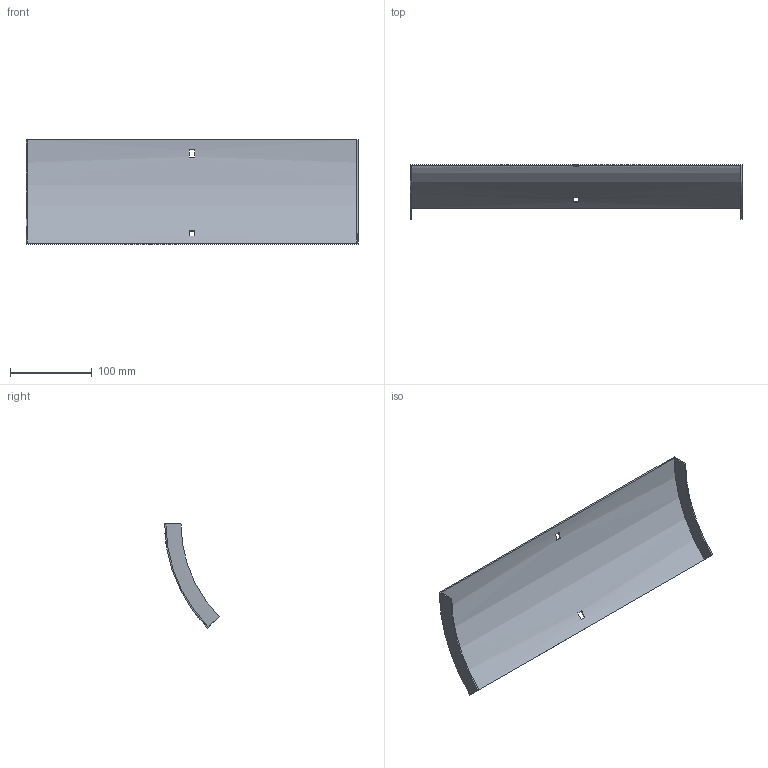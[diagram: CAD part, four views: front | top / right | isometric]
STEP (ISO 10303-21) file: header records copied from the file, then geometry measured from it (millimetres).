
FILE_DESCRIPTION (( 'STEP AP214' ), '1' );
FILE_NAME ('34N1C400.step', '2025-02-21T09:16:04', ( '' ), ( '' ), 'SwSTEP 2.0', 'SolidWorks 2023', '' );
FILE_SCHEMA (( 'AUTOMOTIVE_DESIGN' ));
Length unit declared in the file: millimetre
Products named in the file (1): 34N1C400
Bounding box: 407 x 67.01 x 127.63 mm (x, y, z)
Volume: 93410.6 mm3; surface area: 126352.8 mm2
Topology: 1 solids, 1 shells, 18 faces, 48 edges, 32 vertices
Faces by surface type: plane 14, cylinder 4
Entity records: 599 total; most frequent: DIRECTION 102, CARTESIAN_POINT 99, ORIENTED_EDGE 96, EDGE_CURVE 48, AXIS2_PLACEMENT_3D 35, LINE 32, VERTEX_POINT 32, VECTOR 32
